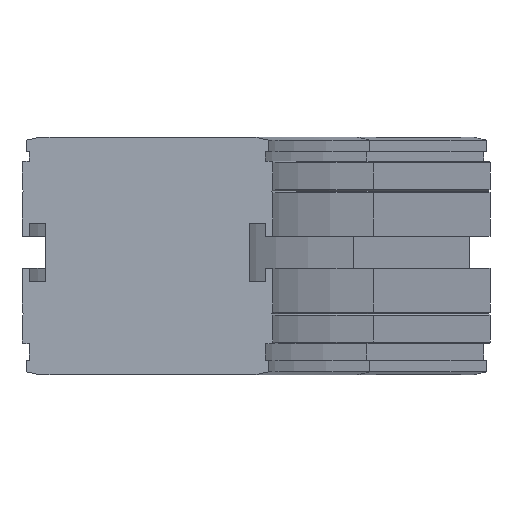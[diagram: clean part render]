
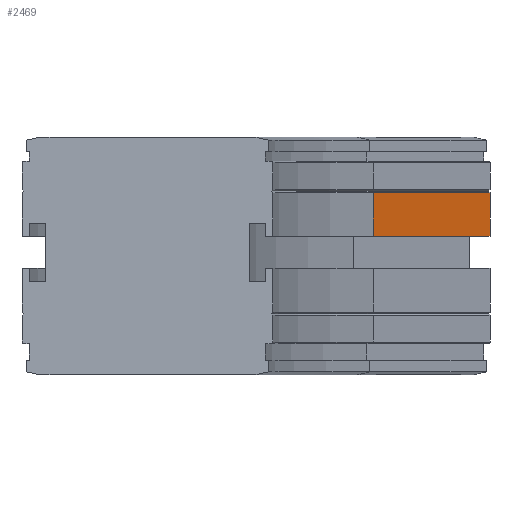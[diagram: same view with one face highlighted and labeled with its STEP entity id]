
A CAD part, left-side view. The second image highlights one B-rep face of the part: STEP entity #2469.
In plain terms, the highlighted planar face has unit normal (-0.5, -0.866, 0).
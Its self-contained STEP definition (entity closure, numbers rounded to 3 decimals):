
#2430=CARTESIAN_POINT('',(208.5,-77.431,-34.));
#2431=DIRECTION('',(-0.5,-0.866,0.));
#2432=DIRECTION('',(0.0,0.0,-1.0));
#2433=AXIS2_PLACEMENT_3D('',#2430,#2431,#2432);
#2434=PLANE('',#2433);
#2435=CARTESIAN_POINT('',(277.782,-117.431,-34.));
#2436=VERTEX_POINT('',#2435);
#2437=CARTESIAN_POINT('',(277.782,-117.431,-19.));
#2438=VERTEX_POINT('',#2437);
#2439=CARTESIAN_POINT('',(277.782,-117.431,-34.));
#2440=DIRECTION('',(0.0,0.0,1.0));
#2441=VECTOR('',#2440,15.);
#2442=LINE('',#2439,#2441);
#2443=EDGE_CURVE('',#2436,#2438,#2442,.T.);
#2444=ORIENTED_EDGE('',*,*,#2443,.T.);
#2445=CARTESIAN_POINT('',(208.5,-77.431,-19.));
#2446=VERTEX_POINT('',#2445);
#2447=CARTESIAN_POINT('',(208.5,-77.431,-19.));
#2448=DIRECTION('',(0.866,-0.5,0.0));
#2449=VECTOR('',#2448,80.);
#2450=LINE('',#2447,#2449);
#2451=EDGE_CURVE('',#2446,#2438,#2450,.T.);
#2452=ORIENTED_EDGE('',*,*,#2451,.F.);
#2453=CARTESIAN_POINT('',(208.5,-77.431,-34.));
#2454=VERTEX_POINT('',#2453);
#2455=CARTESIAN_POINT('',(208.5,-77.431,-34.));
#2456=DIRECTION('',(0.0,0.0,1.0));
#2457=VECTOR('',#2456,15.);
#2458=LINE('',#2455,#2457);
#2459=EDGE_CURVE('',#2454,#2446,#2458,.T.);
#2460=ORIENTED_EDGE('',*,*,#2459,.F.);
#2461=CARTESIAN_POINT('',(208.5,-77.431,-34.));
#2462=DIRECTION('',(0.866,-0.5,0.0));
#2463=VECTOR('',#2462,80.);
#2464=LINE('',#2461,#2463);
#2465=EDGE_CURVE('',#2454,#2436,#2464,.T.);
#2466=ORIENTED_EDGE('',*,*,#2465,.T.);
#2467=EDGE_LOOP('',(#2444,#2452,#2460,#2466));
#2468=FACE_OUTER_BOUND('',#2467,.T.);
#2469=ADVANCED_FACE('',(#2468),#2434,.T.);
